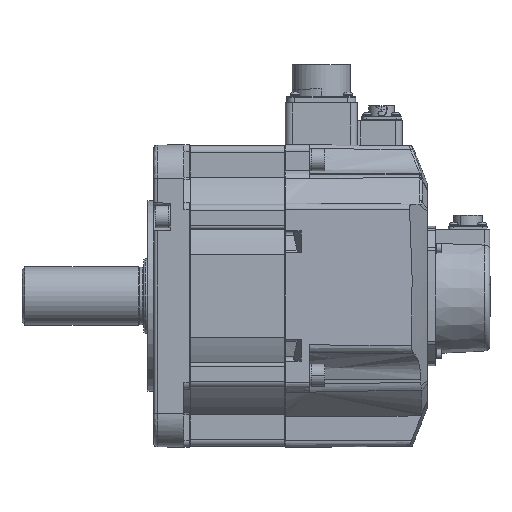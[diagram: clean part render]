
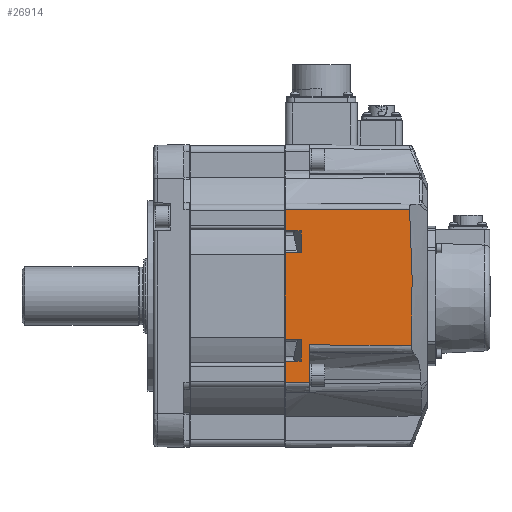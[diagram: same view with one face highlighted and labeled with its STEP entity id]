
A CAD part, left-side view. The second image highlights one B-rep face of the part: STEP entity #26914.
In plain terms, the highlighted planar face has unit normal (-1, -0.009, 0).
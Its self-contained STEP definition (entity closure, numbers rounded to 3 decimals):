
#3156=DIRECTION('',(0.,0.,-1.));
#3157=VECTOR('',#3156,12.75);
#3158=CARTESIAN_POINT('',(-90.746,-52.3,51.75));
#3159=LINE('',#3158,#3157);
#3160=DIRECTION('',(0.,0.,-1.));
#3161=VECTOR('',#3160,52.);
#3162=CARTESIAN_POINT('',(-90.746,-52.3,26.));
#3163=LINE('',#3162,#3161);
#3164=DIRECTION('',(0.,0.,-1.));
#3165=VECTOR('',#3164,12.75);
#3166=CARTESIAN_POINT('',(-90.746,-52.3,-39.));
#3167=LINE('',#3166,#3165);
#4911=DIRECTION('',(0.,0.,1.));
#4912=VECTOR('',#4911,22.417);
#4913=CARTESIAN_POINT('',(-90.619,-66.8,-51.75));
#4914=LINE('',#4913,#4912);
#4994=DIRECTION('',(0.009,-1.,0.));
#4995=VECTOR('',#4994,14.501);
#4996=CARTESIAN_POINT('',(-90.746,-52.3,-51.75));
#4997=LINE('',#4996,#4995);
#5007=DIRECTION('',(0.009,-1.,0.));
#5008=VECTOR('',#5007,9.5);
#5009=CARTESIAN_POINT('',(-90.746,-52.3,-39.));
#5010=LINE('',#5009,#5008);
#5011=DIRECTION('',(0.,0.,-1.));
#5012=VECTOR('',#5011,13.);
#5013=CARTESIAN_POINT('',(-90.663,-61.8,-26.));
#5014=LINE('',#5013,#5012);
#5015=DIRECTION('',(0.009,-1.,0.));
#5016=VECTOR('',#5015,9.5);
#5017=CARTESIAN_POINT('',(-90.746,-52.3,-26.));
#5018=LINE('',#5017,#5016);
#5019=DIRECTION('',(0.009,-1.,0.));
#5020=VECTOR('',#5019,9.5);
#5021=CARTESIAN_POINT('',(-90.746,-52.3,26.));
#5022=LINE('',#5021,#5020);
#5023=DIRECTION('',(0.,0.,-1.));
#5024=VECTOR('',#5023,13.);
#5025=CARTESIAN_POINT('',(-90.663,-61.8,39.));
#5026=LINE('',#5025,#5024);
#5027=DIRECTION('',(0.009,-1.,0.));
#5028=VECTOR('',#5027,9.5);
#5029=CARTESIAN_POINT('',(-90.746,-52.3,39.));
#5030=LINE('',#5029,#5028);
#5031=CARTESIAN_POINT('',(-90.086,-127.866,
-29.502));
#5032=CARTESIAN_POINT('',(-90.086,-127.934,
-27.567));
#5033=CARTESIAN_POINT('',(-90.085,-128.056,
-23.697));
#5034=CARTESIAN_POINT('',(-90.083,-128.199,
-17.896));
#5035=CARTESIAN_POINT('',(-90.082,-128.303,
-12.097));
#5036=CARTESIAN_POINT('',(-90.082,-128.366,
-6.297));
#5037=CARTESIAN_POINT('',(-90.082,-128.39,
-0.496));
#5038=CARTESIAN_POINT('',(-90.082,-128.373,
5.305));
#5039=CARTESIAN_POINT('',(-90.082,-128.316,
11.106));
#5040=CARTESIAN_POINT('',(-90.083,-128.22,
16.905));
#5041=CARTESIAN_POINT('',(-90.084,-128.083,
22.705));
#5042=CARTESIAN_POINT('',(-90.086,-127.907,
28.509));
#5043=CARTESIAN_POINT('',(-90.088,-127.691,
34.315));
#5044=CARTESIAN_POINT('',(-90.09,-127.437,
40.123));
#5045=CARTESIAN_POINT('',(-90.092,-127.143,
45.934));
#5046=CARTESIAN_POINT('',(-90.094,-126.922,
49.811));
#5047=CARTESIAN_POINT('',(-90.095,-126.805,51.75));
#5049=CARTESIAN_POINT('',(-90.619,-66.8,-29.333));
#5050=CARTESIAN_POINT('',(-90.56,-73.621,
-29.351));
#5051=CARTESIAN_POINT('',(-90.441,-87.239,
-29.388));
#5052=CARTESIAN_POINT('',(-90.263,-107.596,
-29.445));
#5053=CARTESIAN_POINT('',(-90.145,-121.117,
-29.483));
#5054=CARTESIAN_POINT('',(-90.086,-127.866,
-29.502));
#5213=CARTESIAN_POINT('',(-90.095,-126.805,51.75));
#5241=DIRECTION('',(-0.009,1.,0.));
#5242=VECTOR('',#5241,74.508);
#5243=CARTESIAN_POINT('',(-90.095,-126.805,51.75));
#5244=LINE('',#5243,#5242);
#18509=CARTESIAN_POINT('',(-90.663,-61.8,-26.));
#18510=VERTEX_POINT('',#18509);
#18511=CARTESIAN_POINT('',(-90.663,-61.8,26.));
#18512=VERTEX_POINT('',#18511);
#18513=CARTESIAN_POINT('',(-90.663,-61.8,-39.));
#18514=VERTEX_POINT('',#18513);
#18515=CARTESIAN_POINT('',(-90.663,-61.8,39.));
#18516=VERTEX_POINT('',#18515);
#18533=CARTESIAN_POINT('',(-90.746,-52.3,-39.));
#18534=VERTEX_POINT('',#18533);
#18535=CARTESIAN_POINT('',(-90.746,-52.3,-26.));
#18536=VERTEX_POINT('',#18535);
#18537=CARTESIAN_POINT('',(-90.746,-52.3,39.));
#18538=VERTEX_POINT('',#18537);
#18539=CARTESIAN_POINT('',(-90.746,-52.3,26.));
#18540=VERTEX_POINT('',#18539);
#18767=VERTEX_POINT('',#5213);
#18795=CARTESIAN_POINT('',(-90.746,-52.3,-51.75));
#18797=VERTEX_POINT('',#18795);
#18800=CARTESIAN_POINT('',(-90.746,-52.3,51.75));
#18802=VERTEX_POINT('',#18800);
#18829=CARTESIAN_POINT('',(-90.619,-66.8,-51.75));
#18831=VERTEX_POINT('',#18829);
#18856=VERTEX_POINT('',#5031);
#18929=VERTEX_POINT('',#5049);
#26885=CARTESIAN_POINT('',(-90.75,-51.8,-60.786));
#26886=DIRECTION('',(-1.,-0.009,0.));
#26887=DIRECTION('',(0.,0.,1.));
#26888=AXIS2_PLACEMENT_3D('',#26885,#26886,#26887);
#26889=PLANE('',#26888);
#26890=ORIENTED_EDGE('',*,*,#26814,.F.);
#26891=ORIENTED_EDGE('',*,*,#26878,.F.);
#26892=ORIENTED_EDGE('',*,*,#25012,.F.);
#26894=ORIENTED_EDGE('',*,*,#26893,.T.);
#26896=ORIENTED_EDGE('',*,*,#26895,.F.);
#26898=ORIENTED_EDGE('',*,*,#26897,.F.);
#26899=ORIENTED_EDGE('',*,*,#25000,.F.);
#26901=ORIENTED_EDGE('',*,*,#26900,.T.);
#26903=ORIENTED_EDGE('',*,*,#26902,.F.);
#26905=ORIENTED_EDGE('',*,*,#26904,.F.);
#26906=ORIENTED_EDGE('',*,*,#24988,.F.);
#26908=ORIENTED_EDGE('',*,*,#26907,.F.);
#26909=ORIENTED_EDGE('',*,*,#26749,.F.);
#26911=ORIENTED_EDGE('',*,*,#26910,.F.);
#26912=EDGE_LOOP('',(#26890,#26891,#26892,#26894,#26896,#26898,#26899,#26901,
#26903,#26905,#26906,#26908,#26909,#26911));
#26913=FACE_OUTER_BOUND('',#26912,.F.);
#26914=ADVANCED_FACE('',(#26913),#26889,.T.);
#5048=B_SPLINE_CURVE_WITH_KNOTS('',3,(#5031,#5032,#5033,#5034,#5035,#5036,#5037,
#5038,#5039,#5040,#5041,#5042,#5043,#5044,#5045,#5046,#5047),.UNSPECIFIED.,.F.,
.F.,(4,1,1,1,1,1,1,1,1,1,1,1,1,1,4),(0.,0.071,0.143,
0.214,0.286,0.357,0.429,0.5,
0.571,0.643,0.714,0.786,
0.857,0.929,1.),.UNSPECIFIED.);
#5055=B_SPLINE_CURVE_WITH_KNOTS('',3,(#5049,#5050,#5051,#5052,#5053,#5054),
.UNSPECIFIED.,.F.,.F.,(4,1,1,4),(0.,0.333,0.667,1.),
.UNSPECIFIED.);
#24988=EDGE_CURVE('',#18802,#18538,#3159,.T.);
#25000=EDGE_CURVE('',#18540,#18536,#3163,.T.);
#25012=EDGE_CURVE('',#18534,#18797,#3167,.T.);
#26749=EDGE_CURVE('',#18856,#18767,#5048,.T.);
#26814=EDGE_CURVE('',#18831,#18929,#4914,.T.);
#26878=EDGE_CURVE('',#18797,#18831,#4997,.T.);
#26893=EDGE_CURVE('',#18534,#18514,#5010,.T.);
#26895=EDGE_CURVE('',#18510,#18514,#5014,.T.);
#26897=EDGE_CURVE('',#18536,#18510,#5018,.T.);
#26900=EDGE_CURVE('',#18540,#18512,#5022,.T.);
#26902=EDGE_CURVE('',#18516,#18512,#5026,.T.);
#26904=EDGE_CURVE('',#18538,#18516,#5030,.T.);
#26907=EDGE_CURVE('',#18767,#18802,#5244,.T.);
#26910=EDGE_CURVE('',#18929,#18856,#5055,.T.);
